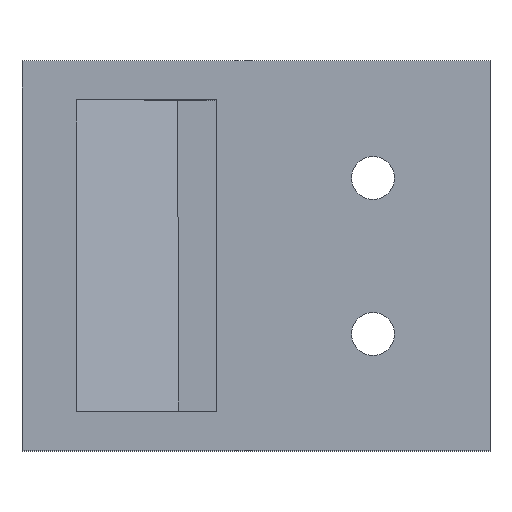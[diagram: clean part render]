
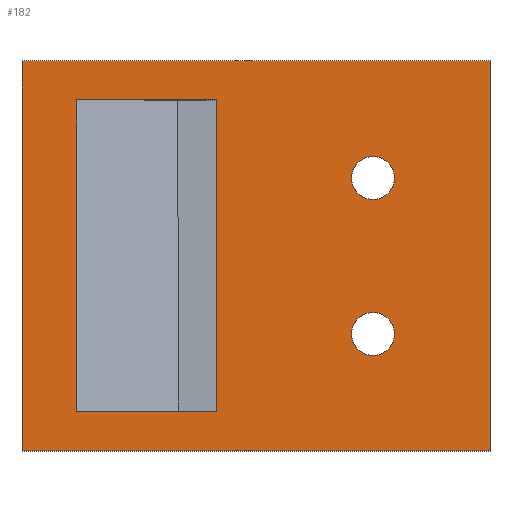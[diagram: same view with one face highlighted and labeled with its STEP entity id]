
A CAD part, top view. The second image highlights one B-rep face of the part: STEP entity #182.
In plain terms, the highlighted planar face has unit normal (0, 0, 1).
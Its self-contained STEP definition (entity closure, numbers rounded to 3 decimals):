
#1 = CARTESIAN_POINT ( 'NONE',  ( -15., 10., 0. ) ) ;
#2 = DIRECTION ( 'NONE',  ( 0., 0., -1. ) ) ;
#4 = DIRECTION ( 'NONE',  ( 1., 0., 0. ) ) ;
#7 = CIRCLE ( 'NONE', #643, 2.75 ) ;
#12 = DIRECTION ( 'NONE',  ( 0., 0., -1. ) ) ;
#21 = CARTESIAN_POINT ( 'NONE',  ( 0., 20., 0. ) ) ;
#22 = DIRECTION ( 'NONE',  ( 1., 0., 0. ) ) ;
#27 = DIRECTION ( 'NONE',  ( 0., -1., 0. ) ) ;
#30 = EDGE_CURVE ( 'NONE', #422, #308, #34, .T. ) ;
#34 = CIRCLE ( 'NONE', #652, 2.75 ) ;
#35 = AXIS2_PLACEMENT_3D ( 'NONE', #343, #563, #185 ) ;
#37 = CARTESIAN_POINT ( 'NONE',  ( 0., 25., 0. ) ) ;
#39 = FACE_BOUND ( 'NONE', #345, .T. ) ;
#40 = DIRECTION ( 'NONE',  ( 1., 0., 0. ) ) ;
#46 = LINE ( 'NONE', #592, #262 ) ;
#51 = EDGE_CURVE ( 'NONE', #478, #264, #431, .T. ) ;
#53 = VERTEX_POINT ( 'NONE', #37 ) ;
#59 = ORIENTED_EDGE ( 'NONE', *, *, #312, .F. ) ;
#69 = ORIENTED_EDGE ( 'NONE', *, *, #408, .T. ) ;
#88 = ORIENTED_EDGE ( 'NONE', *, *, #245, .T. ) ;
#90 = EDGE_CURVE ( 'NONE', #383, #148, #273, .T. ) ;
#96 = CARTESIAN_POINT ( 'NONE',  ( -60., -25., 0. ) ) ;
#98 = CARTESIAN_POINT ( 'NONE',  ( -53., 0., 0. ) ) ;
#107 = LINE ( 'NONE', #605, #608 ) ;
#109 = ORIENTED_EDGE ( 'NONE', *, *, #265, .T. ) ;
#110 = CARTESIAN_POINT ( 'NONE',  ( 0., 25., 0. ) ) ;
#113 = AXIS2_PLACEMENT_3D ( 'NONE', #597, #12, #22 ) ;
#115 = DIRECTION ( 'NONE',  ( 0., 1., 0. ) ) ;
#117 = CARTESIAN_POINT ( 'NONE',  ( -12.25, 10., 0. ) ) ;
#123 = ORIENTED_EDGE ( 'NONE', *, *, #167, .F. ) ;
#125 = AXIS2_PLACEMENT_3D ( 'NONE', #507, #500, #473 ) ;
#132 = CARTESIAN_POINT ( 'NONE',  ( -17.75, 10., 0. ) ) ;
#138 = CARTESIAN_POINT ( 'NONE',  ( -17.75, -10., 0. ) ) ;
#139 = DIRECTION ( 'NONE',  ( 1., 0., 0. ) ) ;
#148 = VERTEX_POINT ( 'NONE', #96 ) ;
#153 = CARTESIAN_POINT ( 'NONE',  ( -12.25, -10., 0. ) ) ;
#154 = VERTEX_POINT ( 'NONE', #153 ) ;
#162 = EDGE_CURVE ( 'NONE', #298, #478, #325, .T. ) ;
#164 = DIRECTION ( 'NONE',  ( -1., 0., 0. ) ) ;
#167 = EDGE_CURVE ( 'NONE', #53, #383, #410, .T. ) ;
#182 = ADVANCED_FACE ( 'NONE', ( #332, #588, #39, #419 ), #215, .T. ) ;
#183 = ORIENTED_EDGE ( 'NONE', *, *, #30, .T. ) ;
#185 = DIRECTION ( 'NONE',  ( 1., 0., 0. ) ) ;
#200 = CARTESIAN_POINT ( 'NONE',  ( -35., 20., 0. ) ) ;
#211 = VECTOR ( 'NONE', #115, 1000. ) ;
#212 = CARTESIAN_POINT ( 'NONE',  ( 0., -25., 0. ) ) ;
#215 = PLANE ( 'NONE',  #125 ) ;
#245 = EDGE_CURVE ( 'NONE', #308, #422, #7, .T. ) ;
#253 = VECTOR ( 'NONE', #139, 1000. ) ;
#254 = CIRCLE ( 'NONE', #35, 2.75 ) ;
#262 = VECTOR ( 'NONE', #27, 1000. ) ;
#264 = VERTEX_POINT ( 'NONE', #200 ) ;
#265 = EDGE_CURVE ( 'NONE', #264, #339, #46, .T. ) ;
#273 = LINE ( 'NONE', #212, #392 ) ;
#298 = VERTEX_POINT ( 'NONE', #547 ) ;
#308 = VERTEX_POINT ( 'NONE', #132 ) ;
#312 = EDGE_CURVE ( 'NONE', #148, #403, #508, .T. ) ;
#325 = LINE ( 'NONE', #98, #211 ) ;
#332 = FACE_BOUND ( 'NONE', #535, .T. ) ;
#336 = ORIENTED_EDGE ( 'NONE', *, *, #162, .T. ) ;
#338 = CARTESIAN_POINT ( 'NONE',  ( -60., 25., 0. ) ) ;
#339 = VERTEX_POINT ( 'NONE', #368 ) ;
#343 = CARTESIAN_POINT ( 'NONE',  ( -15., -10., 0. ) ) ;
#344 = ORIENTED_EDGE ( 'NONE', *, *, #394, .T. ) ;
#345 = EDGE_LOOP ( 'NONE', ( #616, #109, #533, #336 ) ) ;
#347 = EDGE_LOOP ( 'NONE', ( #183, #88 ) ) ;
#357 = DIRECTION ( 'NONE',  ( 0., 1., 0. ) ) ;
#360 = VERTEX_POINT ( 'NONE', #138 ) ;
#367 = EDGE_CURVE ( 'NONE', #403, #53, #107, .T. ) ;
#368 = CARTESIAN_POINT ( 'NONE',  ( -35., -20., 0. ) ) ;
#370 = DIRECTION ( 'NONE',  ( -1., 0., 0. ) ) ;
#383 = VERTEX_POINT ( 'NONE', #573 ) ;
#388 = CARTESIAN_POINT ( 'NONE',  ( 0., -20., 0. ) ) ;
#392 = VECTOR ( 'NONE', #164, 1000. ) ;
#394 = EDGE_CURVE ( 'NONE', #154, #360, #578, .T. ) ;
#403 = VERTEX_POINT ( 'NONE', #338 ) ;
#408 = EDGE_CURVE ( 'NONE', #360, #154, #254, .T. ) ;
#410 = LINE ( 'NONE', #110, #567 ) ;
#419 = FACE_OUTER_BOUND ( 'NONE', #628, .T. ) ;
#422 = VERTEX_POINT ( 'NONE', #117 ) ;
#429 = VECTOR ( 'NONE', #370, 1000. ) ;
#431 = LINE ( 'NONE', #21, #253 ) ;
#455 = CARTESIAN_POINT ( 'NONE',  ( -60., -25., 0. ) ) ;
#463 = DIRECTION ( 'NONE',  ( 0., -1., 0. ) ) ;
#473 = DIRECTION ( 'NONE',  ( 1., 0., 0. ) ) ;
#478 = VERTEX_POINT ( 'NONE', #634 ) ;
#500 = DIRECTION ( 'NONE',  ( 0., 0., 1. ) ) ;
#507 = CARTESIAN_POINT ( 'NONE',  ( 0., 0., 0. ) ) ;
#508 = LINE ( 'NONE', #455, #552 ) ;
#511 = ORIENTED_EDGE ( 'NONE', *, *, #367, .F. ) ;
#533 = ORIENTED_EDGE ( 'NONE', *, *, #568, .T. ) ;
#535 = EDGE_LOOP ( 'NONE', ( #344, #69 ) ) ;
#547 = CARTESIAN_POINT ( 'NONE',  ( -53., -20., 0. ) ) ;
#552 = VECTOR ( 'NONE', #357, 1000. ) ;
#563 = DIRECTION ( 'NONE',  ( 0., 0., -1. ) ) ;
#567 = VECTOR ( 'NONE', #463, 1000. ) ;
#568 = EDGE_CURVE ( 'NONE', #339, #298, #576, .T. ) ;
#573 = CARTESIAN_POINT ( 'NONE',  ( 0., -25., 0. ) ) ;
#576 = LINE ( 'NONE', #388, #429 ) ;
#578 = CIRCLE ( 'NONE', #113, 2.75 ) ;
#588 = FACE_BOUND ( 'NONE', #347, .T. ) ;
#592 = CARTESIAN_POINT ( 'NONE',  ( -35., 0., 0. ) ) ;
#597 = CARTESIAN_POINT ( 'NONE',  ( -15., -10., 0. ) ) ;
#601 = CARTESIAN_POINT ( 'NONE',  ( -15., 10., 0. ) ) ;
#603 = DIRECTION ( 'NONE',  ( 0., 0., -1. ) ) ;
#605 = CARTESIAN_POINT ( 'NONE',  ( -60., 25., 0. ) ) ;
#608 = VECTOR ( 'NONE', #40, 1000. ) ;
#613 = ORIENTED_EDGE ( 'NONE', *, *, #90, .F. ) ;
#616 = ORIENTED_EDGE ( 'NONE', *, *, #51, .T. ) ;
#618 = DIRECTION ( 'NONE',  ( 1., 0., 0. ) ) ;
#628 = EDGE_LOOP ( 'NONE', ( #613, #123, #511, #59 ) ) ;
#634 = CARTESIAN_POINT ( 'NONE',  ( -53., 20., 0. ) ) ;
#643 = AXIS2_PLACEMENT_3D ( 'NONE', #601, #603, #618 ) ;
#652 = AXIS2_PLACEMENT_3D ( 'NONE', #1, #2, #4 ) ;
